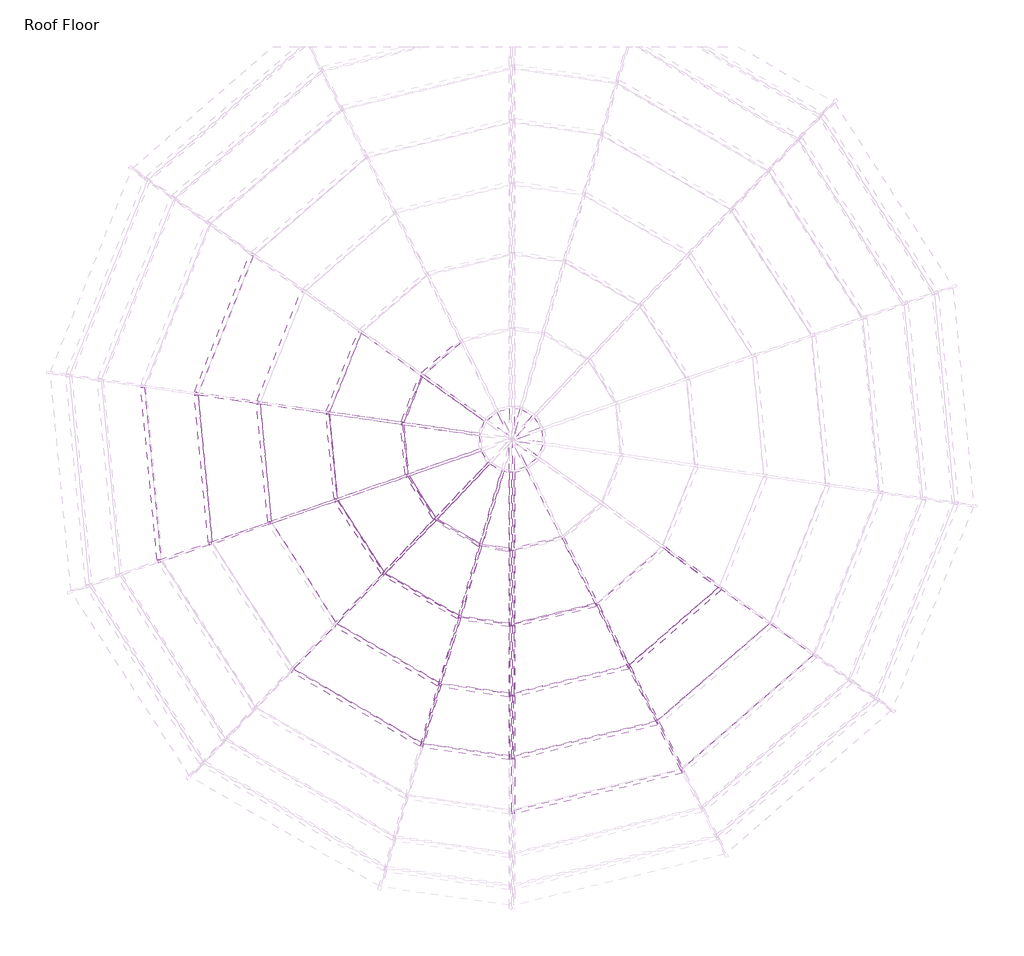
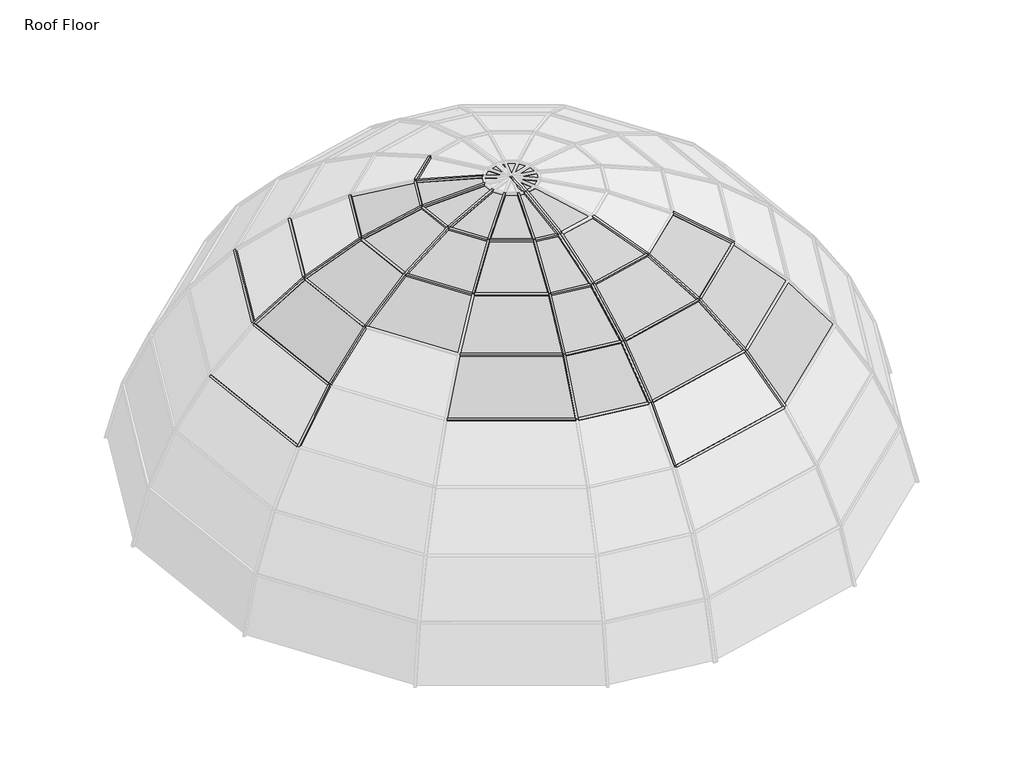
# One storey, part 2 of 5: 56 members, 33 plates.
"""IFC4 building model written with IfcOpenShell, lengths in millimetres."""

from ifc_helpers import new_model, si_unit, origin, place, context, project, spatial, transform, mapped, element, save
from components import member_a4b9d852, member_e5884c93, member_68b33a8a, member_355504b0, member_dee8aa16, member_4046197d, member_16c772f1, member_ac46e98e, member_b6a9e346, member_16816f3b, member_d3833f24, member_335e9b28, member_95e271e4, member_7f7bd10d, member_27f65fe7, member_3534141e, member_a4aff84e, member_5ef621be, member_fbc4017a, member_c4213f63, member_b6c57be0, member_ac816b31, member_27e61d6b, member_0ec1a058, member_85a1b8f2, system_panel_glazed_c9cd471f, system_panel_glazed_f537650c, system_panel_glazed_44273b71, system_panel_glazed_6d268319, system_panel_glazed_99547904, system_panel_glazed_224b1453, system_panel_glazed_86a28251, system_panel_glazed_afbe5211, system_panel_glazed_17e44092, system_panel_glazed_03693a4c, system_panel_glazed_4e9ddf93, system_panel_glazed_1d538f7b, system_panel_glazed_1c764c03, system_panel_glazed_1edf1cd4, system_panel_glazed_730a745b, system_panel_glazed_ecd21c16, system_panel_glazed_1715f78c, system_panel_glazed_c7e3ad41, system_panel_glazed_9eb7958d, system_panel_glazed_02924753, system_panel_glazed_9c9b509f, system_panel_glazed_fecaa5d6

model = new_model("IFC4")

# Units and contexts
model_context = context("Model", 3, world=origin())
ifc_project = project(units=[si_unit("LENGTHUNIT", "METRE", prefix="MILLI")], contexts=[model_context])

# Site, building, storey
site = spatial("IfcSite", under=ifc_project)
building = spatial("IfcBuilding", under=site)
storey = spatial("IfcBuildingStorey", under=building, Name="Roof Floor", Elevation=15240.0)

# Members
placement = place(None, origin())
member_shape = member_a4b9d852(model_context)
element("IfcMember", 1, ObjectType="Rectangular Mullion : 1\" Square", at=placement, inside=storey, context=model_context, shape_type="MappedRepresentation", body=[
    mapped(member_shape, transform((-1076.5556828, -3418.7511629, 21675.0614442), x_axis=(-0.17684502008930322, 0.7291506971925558, 0.6611089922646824), y_axis=(0.15582488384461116, -0.6424824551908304, 0.7502898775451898), z_axis=(0.9718253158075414, 0.23570226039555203, 0.0))),
])
member_2_shape = member_e5884c93(model_context)
element("IfcMember", 2, ObjectType="Rectangular Mullion : 1\" Square", at=placement, inside=storey, context=model_context, shape_type="MappedRepresentation", body=[
    mapped(member_2_shape, transform((-5866.2465514, -1846.2239324, 21117.9670279), x_axis=(0.6270371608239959, 0.059616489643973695, 0.7767047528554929), y_axis=(-0.7732178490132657, -0.07351483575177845, 0.6298648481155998), z_axis=(0.09464965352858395, -0.9955106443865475, 0.0))),
])
member_3_shape = member_68b33a8a(model_context)
element("IfcMember", 3, ObjectType="Rectangular Mullion : 1\" Square", at=placement, inside=storey, context=model_context, shape_type="MappedRepresentation", body=[
    mapped(member_3_shape, transform((-838.3803456, -3880.8791972, 21117.9670279), x_axis=(-0.14846056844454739, 0.6121186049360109, 0.7767047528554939), y_axis=(0.1830710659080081, -0.7548213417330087, 0.6298648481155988), z_axis=(0.9718253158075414, 0.2357022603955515, 0.0))),
])
member_4_shape = member_355504b0(model_context)
element("IfcMember", 4, ObjectType="Rectangular Mullion : 1\" Square", at=placement, inside=storey, context=model_context, shape_type="MappedRepresentation", body=[
    mapped(member_4_shape, transform((-2496.2458139, -1750.988302, 22733.3596998), x_axis=(0.1387867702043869, 0.9628912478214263, 0.23147068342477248), y_axis=(-0.03302188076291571, -0.22910310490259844, 0.9728418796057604), z_axis=(0.989771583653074, -0.1426611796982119, 0.0))),
])
member_5_shape = member_dee8aa16(model_context)
element("IfcMember", 5, ObjectType="Rectangular Mullion : 1\" Square", at=placement, inside=storey, context=model_context, shape_type="MappedRepresentation", body=[
    mapped(member_5_shape, transform((-2783.8842291, -1704.7570429, 22733.3596998), x_axis=(0.48743077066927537, 0.8430054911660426, 0.22749282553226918), y_axis=(-0.11387277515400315, -0.19694155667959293, 0.9737797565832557), z_axis=(0.8657044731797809, -0.5005554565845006, 0.0))),
])
element("IfcMember", 6, ObjectType="Rectangular Mullion : 1\" Square", at=placement, inside=storey, context=model_context, shape_type="MappedRepresentation", body=[
    mapped(member_5_shape, transform((-3215.8533052, -1448.26924, 22733.3596998), x_axis=(0.8194718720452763, 0.5260350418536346, 0.22749282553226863), y_axis=(-0.19144367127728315, -0.12289144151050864, 0.9737797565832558), z_axis=(0.5401991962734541, -0.8415371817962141, 0.0))),
])
element("IfcMember", 7, ObjectType="Rectangular Mullion : 1\" Square", at=placement, inside=storey, context=model_context, shape_type="MappedRepresentation", body=[
    mapped(member_5_shape, transform((-3482.3228948, -1022.3851788, 22733.3596998), x_axis=(0.9694081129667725, 0.09216791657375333, 0.22749282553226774), y_axis=(-0.2264715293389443, -0.021532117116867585, 0.973779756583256), z_axis=(0.09464965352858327, -0.9955106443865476, 0.0))),
])
element("IfcMember", 8, ObjectType="Rectangular Mullion : 1\" Square", at=placement, inside=storey, context=model_context, shape_type="MappedRepresentation", body=[
    mapped(member_5_shape, transform((-3524.0775334, -521.7457618, 22733.3596998), x_axis=(0.9039203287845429, -0.362180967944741, 0.22749282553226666), y_axis=(-0.21117238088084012, 0.08461212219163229, 0.9737797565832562), z_axis=(-0.37193314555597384, -0.9282595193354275, 0.0))),
])
element("IfcMember", 9, ObjectType="Rectangular Mullion : 1\" Square", at=placement, inside=storey, context=model_context, shape_type="MappedRepresentation", body=[
    mapped(member_5_shape, transform((-3331.8384125, -57.6041927, 22733.3596998), x_axis=(0.6375613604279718, -0.736045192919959, 0.22749282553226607), y_axis=(-0.1489460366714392, 0.17195366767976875, 0.9737797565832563), z_axis=(-0.7558641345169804, -0.6547285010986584, 0.0))),
])
member_6_shape = member_4046197d(model_context)
element("IfcMember", 10, ObjectType="Rectangular Mullion : 1\" Square", at=placement, inside=storey, context=model_context, shape_type="MappedRepresentation", body=[
    mapped(member_6_shape, transform((-2496.2458139, -2474.4625322, 22494.1337848), x_axis=(0.13145065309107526, 0.9119938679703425, 0.3885716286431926), y_axis=(-0.05543408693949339, -0.38459715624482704, 0.9214185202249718), z_axis=(0.9897715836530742, -0.14266117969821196, 0.0))),
])
member_7_shape = member_16c772f1(model_context)
element("IfcMember", 11, ObjectType="Rectangular Mullion : 1\" Square", at=placement, inside=storey, context=model_context, shape_type="MappedRepresentation", body=[
    mapped(member_7_shape, transform((-2988.1962192, -2398.7826709, 22494.1337848), x_axis=(0.462477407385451, 0.799848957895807, 0.3825654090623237), y_axis=(-0.19149520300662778, -0.3311885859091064, 0.923928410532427), z_axis=(0.8657044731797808, -0.5005554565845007, 0.0))),
])
element("IfcMember", 12, ObjectType="Rectangular Mullion : 1\" Square", at=placement, inside=storey, context=model_context, shape_type="MappedRepresentation", body=[
    mapped(member_7_shape, transform((-3715.4129599, -1971.5809187, 22494.1337848), x_axis=(0.7775201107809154, 0.4991053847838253, 0.38256540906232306), y_axis=(-0.32194301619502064, -0.20666152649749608, 0.9239284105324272), z_axis=(0.5401991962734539, -0.8415371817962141, 0.0))),
])
element("IfcMember", 13, ObjectType="Rectangular Mullion : 1\" Square", at=placement, inside=storey, context=model_context, shape_type="MappedRepresentation", body=[
    mapped(member_7_shape, transform((-4166.1169574, -1258.6914241, 22494.1337848), x_axis=(0.9197805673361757, 0.08744950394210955, 0.3825654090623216), y_axis=(-0.380847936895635, -0.03620968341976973, 0.9239284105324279), z_axis=(0.09464965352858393, -0.9955106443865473, 0.0))),
])
element("IfcMember", 14, ObjectType="Rectangular Mullion : 1\" Square", at=placement, inside=storey, context=model_context, shape_type="MappedRepresentation", body=[
    mapped(member_7_shape, transform((-4240.1517679, -418.5340746, 22494.1337848), x_axis=(0.8576453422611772, -0.34363959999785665, 0.3825654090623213), y_axis=(-0.3551199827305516, 0.14228875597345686, 0.9239284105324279), z_axis=(-0.3719331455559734, -0.9282595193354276, 0.0))),
])
member_8_shape = member_ac46e98e(model_context)
element("IfcMember", 15, ObjectType="Rectangular Mullion : 1\" Square", at=placement, inside=storey, context=model_context, shape_type="MappedRepresentation", body=[
    mapped(member_8_shape, transform((-1662.4458203, -2281.9573172, 22494.1337848), x_axis=(-0.21777201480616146, 0.8978970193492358, 0.3825654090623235), y_axis=(0.09017153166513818, -0.3717867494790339, 0.923928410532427), z_axis=(0.9718253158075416, 0.23570226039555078, 0.0))),
])
member_9_shape = member_b6a9e346(model_context)
element("IfcMember", 16, ObjectType="Rectangular Mullion : 1\" Square", at=placement, inside=storey, context=model_context, shape_type="MappedRepresentation", body=[
    mapped(member_9_shape, transform((-2496.2458139, -3148.1562054, 22138.0708204), x_axis=(0.12049183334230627, 0.8359624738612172, 0.535395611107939), y_axis=(-0.07638016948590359, -0.5299193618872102, 0.8446014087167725), z_axis=(0.9897715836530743, -0.14266117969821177, 0.0))),
])
member_10_shape = member_16816f3b(model_context)
element("IfcMember", 17, ObjectType="Rectangular Mullion : 1\" Square", at=placement, inside=storey, context=model_context, shape_type="MappedRepresentation", body=[
    mapped(member_10_shape, transform((-3178.4499827, -3045.0540309, 22138.0708204), x_axis=(0.42496420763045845, 0.7349703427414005, 0.5284165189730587), y_axis=(-0.2645017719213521, -0.45745254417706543, 0.8489852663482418), z_axis=(0.8657044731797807, -0.5005554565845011, 0.0))),
])
element("IfcMember", 18, ObjectType="Rectangular Mullion : 1\" Square", at=placement, inside=storey, context=model_context, shape_type="MappedRepresentation", body=[
    mapped(member_10_shape, transform((-4802.8607619, -1478.7379934, 22138.0708204), x_axis=(0.8451738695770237, 0.08035616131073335, 0.5284165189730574), y_axis=(-0.5260442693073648, -0.05001444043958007, 0.8489852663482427), z_axis=(0.09464965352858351, -0.9955106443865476, 0.0))),
])
element("IfcMember", 19, ObjectType="Rectangular Mullion : 1\" Square", at=placement, inside=storey, context=model_context, shape_type="MappedRepresentation", body=[
    mapped(member_10_shape, transform((-4906.9546217, -322.4241404, 22138.0708204), x_axis=(0.7880786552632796, -0.3157657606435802, 0.5284165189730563), y_axis=(-0.4905076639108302, 0.19653561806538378, 0.8489852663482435), z_axis=(-0.37193314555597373, -0.9282595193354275, 0.0))),
])
element("IfcMember", 20, ObjectType="Rectangular Mullion : 1\" Square", at=placement, inside=storey, context=model_context, shape_type="MappedRepresentation", body=[
    mapped(member_10_shape, transform((-472.4625291, -2125.0703261, 22138.0708204), x_axis=(-0.5558548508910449, 0.6417175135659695, 0.5284165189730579), y_axis=(0.34596935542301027, -0.399411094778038, 0.8489852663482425), z_axis=(0.7558641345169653, 0.654728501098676, 0.0))),
])
member_11_shape = member_d3833f24(model_context)
element("IfcMember", 21, ObjectType="Rectangular Mullion : 1\" Square", at=placement, inside=storey, context=model_context, shape_type="MappedRepresentation", body=[
    mapped(member_11_shape, transform((-1353.8113566, -2880.7961378, 22138.0708204), x_axis=(-0.2001077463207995, 0.8250653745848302, 0.5284165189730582), y_axis=(0.12454896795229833, -0.5135285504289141, 0.8489852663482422), z_axis=(0.9718253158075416, 0.23570226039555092, 0.0))),
])
member_12_shape = member_335e9b28(model_context)
element("IfcMember", 22, ObjectType="Rectangular Mullion : 1\" Square", at=placement, inside=storey, context=model_context, shape_type="MappedRepresentation", body=[
    mapped(member_12_shape, transform((-2496.2458139, -3753.3556085, 21675.0614442), x_axis=(0.10617586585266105, 0.7366394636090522, 0.6678989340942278), y_axis=(-0.0952832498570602, -0.6610673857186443, 0.7442519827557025), z_axis=(0.9897715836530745, -0.14266117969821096, 0.0))),
])
member_13_shape = member_95e271e4(model_context)
element("IfcMember", 23, ObjectType="Rectangular Mullion : 1\" Square", at=placement, inside=storey, context=model_context, shape_type="MappedRepresentation", body=[
    mapped(member_13_shape, transform((-3349.3606929, -3625.6191408, 21675.0614442), x_axis=(0.37556169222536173, 0.6495293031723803, 0.6611089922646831), y_axis=(-0.33092171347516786, -0.5723250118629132, 0.7502898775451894), z_axis=(0.8657044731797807, -0.5005554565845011, 0.0))),
])
element("IfcMember", 24, ObjectType="Rectangular Mullion : 1\" Square", at=placement, inside=storey, context=model_context, shape_type="MappedRepresentation", body=[
    mapped(member_13_shape, transform((-5374.8669805, -1676.4124822, 21675.0614442), x_axis=(0.746921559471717, 0.07101467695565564, 0.6611089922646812), y_axis=(-0.6581410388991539, -0.06257373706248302, 0.7502898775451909), z_axis=(0.09464965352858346, -0.9955106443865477, 0.0))),
])
element("IfcMember", 25, ObjectType="Rectangular Mullion : 1\" Square", at=placement, inside=storey, context=model_context, shape_type="MappedRepresentation", body=[
    mapped(member_13_shape, transform((-5505.9637934, -236.0856796, 21675.0614442), x_axis=(0.6964637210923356, -0.2790576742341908, 0.6611089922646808), y_axis=(-0.6136807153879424, 0.24588834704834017, 0.7502898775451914), z_axis=(-0.3719331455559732, -0.9282595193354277, 0.0))),
])
member_14_shape = member_7f7bd10d(model_context)
element("IfcMember", 26, ObjectType="Rectangular Mullion : 1\" Square", at=placement, inside=storey, context=model_context, shape_type="MappedRepresentation", body=[
    mapped(member_14_shape, transform((-5510.6873443, -247.8745755, 21675.0614442), x_axis=(-0.142661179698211, -0.9897715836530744, 0.0), y_axis=(-0.6014088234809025, 0.08668433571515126, 0.7942249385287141), z_axis=(-0.786101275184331, 0.11330506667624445, -0.6076238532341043))),
])
element("IfcMember", 27, ObjectType="Rectangular Mullion : 1\" Square", at=placement, inside=storey, context=model_context, shape_type="MappedRepresentation", body=[
    mapped(member_14_shape, transform((-4911.6781726, -334.2130363, 22138.0708204), x_axis=(-0.14266117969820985, -0.9897715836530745, 0.0), y_axis=(-0.4624947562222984, 0.06666189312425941, 0.8841124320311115), z_axis=(-0.8750693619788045, 0.12612852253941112, -0.4672742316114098))),
])
element("IfcMember", 28, ObjectType="Rectangular Mullion : 1\" Square", at=placement, inside=storey, context=model_context, shape_type="MappedRepresentation", body=[
    mapped(member_14_shape, transform((-4244.8753188, -430.3229705, 22494.1337848), x_axis=(-0.14266117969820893, -0.9897715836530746, 0.0), y_axis=(-0.3107336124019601, 0.04478773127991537, 0.9494412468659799), z_axis=(-0.9397299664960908, 0.13544840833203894, -0.31394477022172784))),
])
element("IfcMember", 29, ObjectType="Rectangular Mullion : 1\" Square", at=placement, inside=storey, context=model_context, shape_type="MappedRepresentation", body=[
    mapped(member_14_shape, transform((-826.0381641, -3877.8857785, 21117.9670279), x_axis=(0.8888888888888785, 0.4581228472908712, 0.0), y_axis=(0.33493133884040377, -0.6498622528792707, 0.6822756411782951), z_axis=(0.31256605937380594, -0.6064672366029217, -0.7310950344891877))),
])
element("IfcMember", 30, ObjectType="Rectangular Mullion : 1\" Square", at=placement, inside=storey, context=model_context, shape_type="MappedRepresentation", body=[
    mapped(member_14_shape, transform((-1064.2135013, -3415.7577442, 21675.0614442), x_axis=(0.8888888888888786, 0.45812284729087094, 0.0), y_axis=(0.2783663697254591, -0.540110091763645, 0.7942249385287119), z_axis=(0.3638525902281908, -0.7059777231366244, -0.6076238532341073))),
])
element("IfcMember", 31, ObjectType="Rectangular Mullion : 1\" Square", at=placement, inside=storey, context=model_context, shape_type="MappedRepresentation", body=[
    mapped(member_14_shape, transform((-1341.4691751, -2877.8027191, 22138.0708204), x_axis=(0.8888888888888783, 0.45812284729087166, 0.0), y_axis=(0.21406900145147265, -0.4153548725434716, 0.884112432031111), z_axis=(0.4050321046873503, -0.7858777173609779, -0.46727423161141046))),
])
element("IfcMember", 32, ObjectType="Rectangular Mullion : 1\" Square", at=placement, inside=storey, context=model_context, shape_type="MappedRepresentation", body=[
    mapped(member_14_shape, transform((-1650.1036388, -2278.9638985, 22494.1337848), x_axis=(0.8888888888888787, 0.4581228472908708, 0.0), y_axis=(0.14382527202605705, -0.2790620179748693, 0.9494412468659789), z_axis=(0.434960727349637, -0.8439477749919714, -0.3139447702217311))),
])
element("IfcMember", 33, ObjectType="Rectangular Mullion : 1\" Square", at=placement, inside=storey, context=model_context, shape_type="MappedRepresentation", body=[
    mapped(member_14_shape, transform((-462.8630546, -2116.7552742, 22138.0708204), x_axis=(0.5802469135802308, 0.8144406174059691, 0.0), y_axis=(0.38056711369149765, -0.27113443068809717, 0.88411243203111), z_axis=(0.7200570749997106, -0.5130035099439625, -0.4672742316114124))),
])
member_15_shape = member_27f65fe7(model_context)
element("IfcMember", 34, ObjectType="Rectangular Mullion : 1\" Square", at=placement, inside=storey, context=model_context, shape_type="MappedRepresentation", body=[
    mapped(member_15_shape, transform((-3341.437887, -65.9192447, 22733.3596998), x_axis=(-0.5802469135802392, -0.8144406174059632, 0.0), y_axis=(-0.12370914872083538, 0.08813638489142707, 0.9883966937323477), z_axis=(-0.804990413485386, 0.5735141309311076, -0.15189462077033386))),
])
element("IfcMember", 35, ObjectType="Rectangular Mullion : 1\" Square", at=placement, inside=storey, context=model_context, shape_type="MappedRepresentation", body=[
    mapped(member_15_shape, transform((-3528.8010843, -533.5346577, 22733.3596998), x_axis=(-0.14266117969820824, -0.9897715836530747, 0.0), y_axis=(-0.15034097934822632, 0.021669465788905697, 0.9883966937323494), z_axis=(-0.9782869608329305, 0.14100583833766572, -0.15189462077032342))),
])
member_16_shape = member_3534141e(model_context)
element("IfcMember", 36, ObjectType="Rectangular Mullion : 1\" Square", at=placement, inside=storey, context=model_context, shape_type="MappedRepresentation", body=[
    mapped(member_16_shape, transform((-2471.1056157, -1001.4536154, 22849.1034008), x_axis=(-0.9993221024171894, -0.00559198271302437, 0.03638770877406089), y_axis=(0.03681488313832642, -0.1517916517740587, 0.9877266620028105), z_axis=(0.0, 0.9883966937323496, 0.1518946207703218))),
])
member_17_shape = member_a4aff84e(model_context)
element("IfcMember", 37, ObjectType="Rectangular Mullion : 1\" Square", at=placement, inside=storey, context=model_context, shape_type="MappedRepresentation", body=[
    mapped(member_17_shape, transform((-2471.1056157, -2478.0861261, 22494.1337848), x_axis=(0.9989777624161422, -0.014191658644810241, 0.042918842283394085), y_axis=(-0.04520431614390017, -0.3136238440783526, 0.9484706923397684), z_axis=(0.0, -0.9494412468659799, -0.31394477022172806))),
])
member_18_shape = member_5ef621be(model_context)
element("IfcMember", 38, ObjectType="Rectangular Mullion : 1\" Square", at=placement, inside=storey, context=model_context, shape_type="MappedRepresentation", body=[
    mapped(member_18_shape, transform((-2471.1056157, -1754.611896, 22733.3596998), x_axis=(0.9997604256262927, -0.003324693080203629, 0.021634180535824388), y_axis=(-0.021888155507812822, -0.1518582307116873, 0.9881598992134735), z_axis=(0.0, -0.9883966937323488, -0.15189462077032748))),
])
member_19_shape = member_fbc4017a(model_context)
element("IfcMember", 39, ObjectType="Rectangular Mullion : 1\" Square", at=placement, inside=storey, context=model_context, shape_type="MappedRepresentation", body=[
    mapped(member_19_shape, transform((-2471.1056157, -1001.4536154, 22849.1034008), x_axis=(0.9999876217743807, -0.00017314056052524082, 0.0049725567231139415), y_axis=(-0.0049755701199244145, -0.0347977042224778, 0.9993819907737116), z_axis=(0.0, -0.9993943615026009, -0.034798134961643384))),
])
member_20_shape = member_c4213f63(model_context)
element("IfcMember", 40, ObjectType="Rectangular Mullion : 1\" Square", at=placement, inside=storey, context=model_context, shape_type="MappedRepresentation", body=[
    mapped(member_20_shape, transform((-2471.1056157, -3756.9792025, 21675.0614442), x_axis=(-0.9846406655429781, -0.12764416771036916, 0.11912063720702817), y_axis=(0.17459312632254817, -0.7198659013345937, 0.6717963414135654), z_axis=(0.0, 0.6822756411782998, 0.7310950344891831))),
])
member_21_shape = member_b6c57be0(model_context)
element("IfcMember", 41, ObjectType="Rectangular Mullion : 1\" Square", at=placement, inside=storey, context=model_context, shape_type="MappedRepresentation", body=[
    mapped(member_21_shape, transform((-2471.1056157, -3151.7797993, 22138.0708204), x_axis=(-0.9893147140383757, -0.08858896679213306, 0.11579460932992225), y_axis=(0.14579573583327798, -0.6011312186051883, 0.7857384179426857), z_axis=(0.0, 0.7942249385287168, 0.607623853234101))),
])
member_22_shape = member_ac816b31(model_context)
element("IfcMember", 42, ObjectType="Rectangular Mullion : 1\" Square", at=placement, inside=storey, context=model_context, shape_type="MappedRepresentation", body=[
    mapped(member_22_shape, transform((-2471.1056157, -2478.0861261, 22494.1337848), x_axis=(-0.9936392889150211, -0.052619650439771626, 0.09955971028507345), y_axis=(0.11260978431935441, -0.46430203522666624, 0.8784888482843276), z_axis=(0.0, 0.8841124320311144, 0.46727423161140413))),
])
member_23_shape = member_27e61d6b(model_context)
element("IfcMember", 43, ObjectType="Rectangular Mullion : 1\" Square", at=placement, inside=storey, context=model_context, shape_type="MappedRepresentation", body=[
    mapped(member_23_shape, transform((-2471.1056157, -1754.611896, 22733.3596998), x_axis=(-0.9971136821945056, -0.02383563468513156, 0.07208444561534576), y_axis=(0.07592301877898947, -0.31303862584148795, 0.9467008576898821), z_axis=(0.0, 0.9494412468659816, 0.3139447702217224))),
])
member_24_shape = member_0ec1a058(model_context)
element("IfcMember", 44, ObjectType="Rectangular Mullion : 1\" Square", at=placement, inside=storey, context=model_context, shape_type="MappedRepresentation", body=[
    mapped(member_24_shape, transform((-2471.1056157, -3756.9792025, 21675.0614442), x_axis=(0.9961867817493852, -0.05301285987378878, 0.0692930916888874), y_axis=(-0.08724617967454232, -0.6053068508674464, 0.7911963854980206), z_axis=(0.0, -0.7942249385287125, -0.6076238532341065))),
])
member_25_shape = member_85a1b8f2(model_context)
element("IfcMember", 45, ObjectType="Rectangular Mullion : 1\" Square", at=placement, inside=storey, context=model_context, shape_type="MappedRepresentation", body=[
    mapped(member_25_shape, transform((-2471.1056157, -3151.7797993, 22138.0708204), x_axis=(0.9977396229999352, -0.0314001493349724, 0.0594110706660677), y_axis=(-0.06719854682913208, -0.46621801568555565, 0.8821140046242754), z_axis=(0.0, -0.8841124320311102, -0.46727423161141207))),
])
element("IfcMember", 46, ObjectType="Rectangular Mullion : 1\" Square", at=placement, inside=storey, context=model_context, shape_type="MappedRepresentation", body=[
    mapped(member_14_shape, transform((-5865.0445008, -1858.8669176, 21117.9670279), x_axis=(0.32662703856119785, -0.9451533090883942, 0.0), y_axis=(-0.6909968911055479, -0.2387954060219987, 0.6822756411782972), z_axis=(-0.6448550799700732, -0.22284967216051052, -0.7310950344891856))),
])
element("IfcMember", 47, ObjectType="Rectangular Mullion : 1\" Square", at=placement, inside=storey, context=model_context, shape_type="MappedRepresentation", body=[
    mapped(member_14_shape, transform((-5373.6649299, -1689.0554674, 21675.0614442), x_axis=(0.32662703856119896, -0.9451533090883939, 0.0), y_axis=(-0.5742976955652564, -0.19846637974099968, 0.7942249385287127), z_axis=(-0.7506643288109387, -0.2594153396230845, -0.6076238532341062))),
])
element("IfcMember", 48, ObjectType="Rectangular Mullion : 1\" Square", at=placement, inside=storey, context=model_context, shape_type="MappedRepresentation", body=[
    mapped(member_14_shape, transform((-4801.6587113, -1491.3809786, 22138.0708204), x_axis=(0.32662703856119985, -0.9451533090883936, 0.0), y_axis=(-0.44164578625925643, -0.15262439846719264, 0.8841124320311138), z_axis=(-0.8356217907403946, -0.28877502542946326, -0.4672742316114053))),
])
element("IfcMember", 49, ObjectType="Rectangular Mullion : 1\" Square", at=placement, inside=storey, context=model_context, shape_type="MappedRepresentation", body=[
    mapped(member_14_shape, transform((-4164.9149068, -1271.3344092, 22494.1337848), x_axis=(0.3266270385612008, -0.9451533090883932, 0.0), y_axis=(-0.29672593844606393, -0.1025428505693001, 0.949441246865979), z_axis=(-0.8973675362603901, -0.3101131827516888, -0.3139447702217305))),
])
element("IfcMember", 50, ObjectType="Rectangular Mullion : 1\" Square", at=placement, inside=storey, context=model_context, shape_type="MappedRepresentation", body=[
    mapped(member_14_shape, transform((-3708.5524301, -1982.2684409, 22494.1337848), x_axis=(0.7233314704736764, -0.6905009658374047, 0.0), y_axis=(-0.2167791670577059, -0.22708613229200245, 0.9494412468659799), z_axis=(-0.6555900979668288, -0.6867607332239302, -0.31394477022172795))),
])
element("IfcMember", 51, ObjectType="Rectangular Mullion : 1\" Square", at=placement, inside=storey, context=model_context, shape_type="MappedRepresentation", body=[
    mapped(member_14_shape, transform((-3338.3662461, -3631.976195, 21675.0614442), x_axis=(0.9592955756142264, -0.2824039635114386, 0.0), y_axis=(-0.17159538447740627, -0.5828908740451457, 0.7942249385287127), z_axis=(-0.2242922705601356, -0.7618964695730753, -0.6076238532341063))),
])
element("IfcMember", 52, ObjectType="Rectangular Mullion : 1\" Square", at=placement, inside=storey, context=model_context, shape_type="MappedRepresentation", body=[
    mapped(member_14_shape, transform((-3167.4555359, -3051.4110852, 22138.0708204), x_axis=(0.959295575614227, -0.2824039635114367, 0.0), y_axis=(-0.1319600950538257, -0.4482541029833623, 0.8841124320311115), z_axis=(-0.24967685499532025, -0.8481251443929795, -0.4672742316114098))),
])
element("IfcMember", 53, ObjectType="Rectangular Mullion : 1\" Square", at=placement, inside=storey, context=model_context, shape_type="MappedRepresentation", body=[
    mapped(member_14_shape, transform((-2977.2017724, -2405.1397252, 22494.1337848), x_axis=(0.959295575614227, -0.28240396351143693, 0.0), y_axis=(-0.08865924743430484, -0.30116582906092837, 0.9494412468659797), z_axis=(-0.2681259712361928, -0.9107947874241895, -0.31394477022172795))),
])
element("IfcMember", 54, ObjectType="Rectangular Mullion : 1\" Square", at=placement, inside=storey, context=model_context, shape_type="MappedRepresentation", body=[
    mapped(member_15_shape, transform((-3481.1208442, -1035.028164, 22733.3596998), x_axis=(0.32662703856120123, -0.945153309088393, 0.0), y_axis=(-0.14356370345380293, -0.04961289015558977, 0.9883966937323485), z_axis=(-0.9341864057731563, -0.32283708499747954, -0.15189462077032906))),
])
element("IfcMember", 55, ObjectType="Rectangular Mullion : 1\" Square", at=placement, inside=storey, context=model_context, shape_type="MappedRepresentation", body=[
    mapped(member_15_shape, transform((-3208.9927754, -1458.9567622, 22733.3596998), x_axis=(0.7233314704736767, -0.6905009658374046, 0.0), y_axis=(-0.104883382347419, -0.10987015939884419, 0.9883966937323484), z_axis=(-0.6824888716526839, -0.7149384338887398, -0.1518946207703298))),
])
element("IfcMember", 56, ObjectType="Rectangular Mullion : 1\" Square", at=placement, inside=storey, context=model_context, shape_type="MappedRepresentation", body=[
    mapped(member_15_shape, transform((-2772.8897823, -1711.1140972, 22733.3596998), x_axis=(0.9592955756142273, -0.282403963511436, 0.0), y_axis=(-0.04289564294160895, -0.14571183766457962, 0.9883966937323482), z_axis=(-0.27912714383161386, -0.948164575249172, -0.15189462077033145))),
])

# Plates
system_panel_glazed_shape = system_panel_glazed_c9cd471f(model_context)
element("IfcPlate", 57, ObjectType="System Panel : Glazed", at=placement, inside=storey, context=model_context, shape_type="MappedRepresentation", body=[
    mapped(system_panel_glazed_shape, transform((-191.8757321, -3317.287633, 21127.3743739), x_axis=(0.7558641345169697, 0.654728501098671, 0.0), y_axis=(-0.4849809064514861, 0.5598957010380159, -0.6717963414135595), z_axis=(-0.43984421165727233, 0.5077867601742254, 0.7407359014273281))),
])
system_panel_glazed_2_shape = system_panel_glazed_f537650c(model_context)
element("IfcPlate", 58, ObjectType="System Panel : Glazed", at=placement, inside=storey, context=model_context, shape_type="MappedRepresentation", body=[
    mapped(system_panel_glazed_2_shape, transform((-1763.7294541, -3575.1471024, 21682.9171425), x_axis=(0.9718253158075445, 0.2357022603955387, 0.0), y_axis=(-0.14579573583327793, 0.6011312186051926, -0.7857384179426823), z_axis=(-0.1852003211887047, 0.7636004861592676, 0.6185589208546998))),
])
system_panel_glazed_3_shape = system_panel_glazed_44273b71(model_context)
element("IfcPlate", 59, ObjectType="System Panel : Glazed", at=placement, inside=storey, context=model_context, shape_type="MappedRepresentation", body=[
    mapped(system_panel_glazed_3_shape, transform((-523.6222459, -2934.2963761, 21682.9171425), x_axis=(0.7558641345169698, 0.6547285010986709, 0.0), y_axis=(-0.40498815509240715, 0.4675465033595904, -0.7857384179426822), z_axis=(-0.5144453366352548, 0.5939114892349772, 0.6185589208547))),
])
element("IfcPlate", 60, ObjectType="System Panel : Glazed", at=placement, inside=storey, context=model_context, shape_type="MappedRepresentation", body=[
    mapped(system_panel_glazed_3_shape, transform((-5432.2420579, -967.5205241, 21682.9171425), x_axis=(0.09464965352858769, -0.9955106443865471, 0.0), y_axis=(0.6157819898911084, 0.05854638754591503, -0.785738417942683), z_axis=(0.7822109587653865, 0.07436986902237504, 0.618558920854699))),
])
element("IfcPlate", 61, ObjectType="System Panel : Glazed", at=placement, inside=storey, context=model_context, shape_type="MappedRepresentation", body=[
    mapped(system_panel_glazed_3_shape, transform((-3960.0028085, -3261.0153635, 21682.9171425), x_axis=(0.8657044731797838, -0.5005554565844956, 0.0), y_axis=(0.3096230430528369, 0.5354892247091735, -0.7857384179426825), z_axis=(0.39330565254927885, 0.6802172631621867, 0.6185589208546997))),
])
system_panel_glazed_4_shape = system_panel_glazed_6d268319(model_context)
element("IfcPlate", 62, ObjectType="System Panel : Glazed", at=placement, inside=storey, context=model_context, shape_type="MappedRepresentation", body=[
    mapped(system_panel_glazed_4_shape, transform((-2909.6282297, -3683.6205117, 21682.8282837), x_axis=(0.9897715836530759, -0.14266117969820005, 0.0), y_axis=(0.08724617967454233, 0.6053068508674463, -0.7911963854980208), z_axis=(0.11287300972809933, 0.7831036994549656, 0.6115621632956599))),
])
system_panel_glazed_5_shape = system_panel_glazed_99547904(model_context)
element("IfcPlate", 63, ObjectType="System Panel : Glazed", at=placement, inside=storey, context=model_context, shape_type="MappedRepresentation", body=[
    mapped(system_panel_glazed_5_shape, transform((-1902.6074708, -3002.4184853, 22144.1384086), x_axis=(0.9718253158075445, 0.2357022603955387, 0.0), y_axis=(-0.11260978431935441, 0.4643020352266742, -0.8784888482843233), z_axis=(-0.20706180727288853, 0.8537377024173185, 0.47776285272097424))),
])
system_panel_glazed_6_shape = system_panel_glazed_224b1453(model_context)
element("IfcPlate", 64, ObjectType="System Panel : Glazed", at=placement, inside=storey, context=model_context, shape_type="MappedRepresentation", body=[
    mapped(system_panel_glazed_6_shape, transform((-909.4707952, -2488.8459653, 22144.1384086), x_axis=(0.7558641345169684, 0.6547285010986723, 0.0), y_axis=(-0.3128049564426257, 0.36112380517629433, -0.8784888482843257), z_axis=(-0.5751716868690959, 0.66401821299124, 0.47776285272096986))),
])
element("IfcPlate", 65, ObjectType="System Panel : Glazed", at=placement, inside=storey, context=model_context, shape_type="MappedRepresentation", body=[
    mapped(system_panel_glazed_6_shape, transform((-4845.5617205, -911.7410194, 22144.1384086), x_axis=(0.0946496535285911, -0.9955106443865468, 0.0), y_axis=(0.47561800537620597, 0.04522008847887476, -0.8784888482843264), z_axis=(0.8745449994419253, 0.08314866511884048, 0.47776285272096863))),
])
element("IfcPlate", 66, ObjectType="System Panel : Glazed", at=placement, inside=storey, context=model_context, shape_type="MappedRepresentation", body=[
    mapped(system_panel_glazed_6_shape, transform((-4478.3097677, -1974.4497285, 22144.1384086), x_axis=(0.5401991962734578, -0.8415371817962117, 0.0), y_axis=(0.4020552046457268, 0.2580871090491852, -0.8784888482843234), z_axis=(0.7392810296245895, 0.47455896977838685, 0.4777628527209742))),
])
element("IfcPlate", 67, ObjectType="System Panel : Glazed", at=placement, inside=storey, context=model_context, shape_type="MappedRepresentation", body=[
    mapped(system_panel_glazed_6_shape, transform((-3665.0124477, -2750.8331818, 22144.1384086), x_axis=(0.865704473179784, -0.5005554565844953, 0.0), y_axis=(0.23914680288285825, 0.41360143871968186, -0.8784888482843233), z_axis=(0.43973238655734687, 0.7605117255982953, 0.47776285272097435))),
])
system_panel_glazed_7_shape = system_panel_glazed_86a28251(model_context)
element("IfcPlate", 68, ObjectType="System Panel : Glazed", at=placement, inside=storey, context=model_context, shape_type="MappedRepresentation", body=[
    mapped(system_panel_glazed_7_shape, transform((-2824.0180109, -3089.5939905, 22144.0529771), x_axis=(0.9897715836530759, -0.14266117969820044, 0.0), y_axis=(0.0671985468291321, 0.46621801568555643, -0.882114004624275), z_axis=(0.12584342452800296, 0.8730913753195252, 0.47103596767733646))),
])
system_panel_glazed_8_shape = system_panel_glazed_afbe5211(model_context)
element("IfcPlate", 69, ObjectType="System Panel : Glazed", at=placement, inside=storey, context=model_context, shape_type="MappedRepresentation", body=[
    mapped(system_panel_glazed_8_shape, transform((-2057.1068274, -2365.3050025, 22498.2246338), x_axis=(0.9718253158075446, 0.23570226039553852, 0.0), y_axis=(-0.07592301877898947, 0.3130386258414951, -0.9467008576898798), z_axis=(-0.22313953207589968, 0.9200278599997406, 0.32211408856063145))),
])
system_panel_glazed_9_shape = system_panel_glazed_17e44092(model_context)
element("IfcPlate", 70, ObjectType="System Panel : Glazed", at=placement, inside=storey, context=model_context, shape_type="MappedRepresentation", body=[
    mapped(system_panel_glazed_9_shape, transform((-4076.6094444, -42.6960528, 22498.2246338), x_axis=(-0.3719331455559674, -0.92825951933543, 0.0), y_axis=(0.29900546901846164, -0.11980490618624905, -0.9467008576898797), z_axis=(0.8787840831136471, -0.3521094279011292, 0.3221140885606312))),
])
element("IfcPlate", 71, ObjectType="System Panel : Glazed", at=placement, inside=storey, context=model_context, shape_type="MappedRepresentation", body=[
    mapped(system_panel_glazed_9_shape, transform((-4192.9259879, -849.6907075, 22498.2246338), x_axis=(0.0946496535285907, -0.9955106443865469, 0.0), y_axis=(0.32066800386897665, 0.030487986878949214, -0.9467008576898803), z_axis=(0.9424507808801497, 0.08960490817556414, 0.32211408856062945))),
])
element("IfcPlate", 72, ObjectType="System Panel : Glazed", at=placement, inside=storey, context=model_context, shape_type="MappedRepresentation", body=[
    mapped(system_panel_glazed_9_shape, transform((-3926.615782, -1620.3065556, 22498.2246338), x_axis=(0.5401991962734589, -0.841537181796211, 0.0), y_axis=(0.271070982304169, 0.17400577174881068, -0.9467008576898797), z_axis=(0.7966839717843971, 0.5114070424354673, 0.3221140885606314))),
])
element("IfcPlate", 73, ObjectType="System Panel : Glazed", at=placement, inside=storey, context=model_context, shape_type="MappedRepresentation", body=[
    mapped(system_panel_glazed_9_shape, transform((-3336.8588725, -2183.2956308, 22498.2246338), x_axis=(0.865704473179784, -0.5005554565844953, 0.0), y_axis=(0.1612359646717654, 0.2788556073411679, -0.9467008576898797), z_axis=(0.473876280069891, 0.819563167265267, 0.3221140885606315))),
])
system_panel_glazed_10_shape = system_panel_glazed_03693a4c(model_context)
element("IfcPlate", 74, ObjectType="System Panel : Glazed", at=placement, inside=storey, context=model_context, shape_type="MappedRepresentation", body=[
    mapped(system_panel_glazed_10_shape, transform((-2728.7787665, -2428.7762305, 22498.1579687), x_axis=(0.9897715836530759, -0.1426611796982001, 0.0), y_axis=(0.04520431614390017, 0.3136238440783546, -0.9484706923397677), z_axis=(0.13530994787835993, 0.9387693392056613, 0.3168648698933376))),
])
system_panel_glazed_11_shape = system_panel_glazed_4e9ddf93(model_context)
element("IfcPlate", 75, ObjectType="System Panel : Glazed", at=placement, inside=storey, context=model_context, shape_type="MappedRepresentation", body=[
    mapped(system_panel_glazed_11_shape, transform((-2222.9356485, -1681.5140361, 22735.3433422), x_axis=(0.9718253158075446, 0.2357022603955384, 0.0), y_axis=(-0.036814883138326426, 0.15179165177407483, -0.9877266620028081), z_axis=(-0.23280940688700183, 0.9598977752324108, 0.15619232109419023))),
])
system_panel_glazed_12_shape = system_panel_glazed_1d538f7b(model_context)
element("IfcPlate", 76, ObjectType="System Panel : Glazed", at=placement, inside=storey, context=model_context, shape_type="MappedRepresentation", body=[
    mapped(system_panel_glazed_12_shape, transform((-3423.4752789, -304.3925284, 22735.3433422), x_axis=(-0.3719331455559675, -0.9282595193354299, 0.0), y_axis=(0.14498700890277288, -0.05809310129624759, -0.987726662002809), z_axis=(0.9168666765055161, -0.3673682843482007, 0.1561923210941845))),
])
element("IfcPlate", 77, ObjectType="System Panel : Glazed", at=placement, inside=storey, context=model_context, shape_type="MappedRepresentation", body=[
    mapped(system_panel_glazed_12_shape, transform((-3492.4731507, -783.0941134, 22735.3433422), x_axis=(0.09464965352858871, -0.995510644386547, 0.0), y_axis=(0.15549111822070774, 0.014783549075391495, -0.9877266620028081), z_axis=(0.9832924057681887, 0.09348798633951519, 0.15619232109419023))),
])
element("IfcPlate", 78, ObjectType="System Panel : Glazed", at=placement, inside=storey, context=model_context, shape_type="MappedRepresentation", body=[
    mapped(system_panel_glazed_12_shape, transform((-3334.5004592, -1240.2161349, 22735.3433422), x_axis=(0.5401991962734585, -0.8415371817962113, 0.0), y_axis=(0.13144164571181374, 0.08437496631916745, -0.9877266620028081), z_axis=(0.8312087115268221, 0.5335691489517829, 0.15619232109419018))),
])
element("IfcPlate", 79, ObjectType="System Panel : Glazed", at=placement, inside=storey, context=model_context, shape_type="MappedRepresentation", body=[
    mapped(system_panel_glazed_12_shape, transform((-2984.6622469, -1574.1759215, 22735.3433422), x_axis=(0.8657044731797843, -0.5005554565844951, 0.0), y_axis=(0.07818291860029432, 0.13521639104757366, -0.9877266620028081), z_axis=(0.49441197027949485, 0.8550793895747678, 0.15619232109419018))),
])
system_panel_glazed_13_shape = system_panel_glazed_1c764c03(model_context)
element("IfcPlate", 80, ObjectType="System Panel : Glazed", at=placement, inside=storey, context=model_context, shape_type="MappedRepresentation", body=[
    mapped(system_panel_glazed_13_shape, transform((-2626.5558326, -1719.5266878, 22735.3082297), x_axis=(0.9897715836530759, -0.1426611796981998, 0.0), y_axis=(0.021888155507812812, 0.15185823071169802, -0.9881598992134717), z_axis=(0.14097205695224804, 0.9780525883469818, 0.15342755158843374))),
])
system_panel_glazed_14_shape = system_panel_glazed_1edf1cd4(model_context)
element("IfcPlate", 81, ObjectType="System Panel : Glazed", at=placement, inside=storey, context=model_context, shape_type="MappedRepresentation", body=[
    mapped(system_panel_glazed_14_shape, transform((-2395.4861833, -982.2189768, 22849.1342886), x_axis=(0.9999649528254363, 0.00028901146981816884, -0.008367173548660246), y_axis=(-0.008372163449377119, 0.0345193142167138, -0.999368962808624), z_axis=(0.0, 0.9994039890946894, 0.034520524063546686))),
])
system_panel_glazed_15_shape = system_panel_glazed_730a745b(model_context)
element("IfcPlate", 82, ObjectType="System Panel : Glazed", at=placement, inside=storey, context=model_context, shape_type="MappedRepresentation", body=[
    mapped(system_panel_glazed_15_shape, transform((-2335.2603835, -946.2448874, 22849.8468539), x_axis=(0.9997295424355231, 0.0006245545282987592, -0.023247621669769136), y_axis=(-0.02325600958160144, 0.026848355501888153, -0.999368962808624), z_axis=(0.0, 0.9996393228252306, 0.026855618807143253))),
])
system_panel_glazed_16_shape = system_panel_glazed_ecd21c16(model_context)
element("IfcPlate", 83, ObjectType="System Panel : Glazed", at=placement, inside=storey, context=model_context, shape_type="MappedRepresentation", body=[
    mapped(system_panel_glazed_16_shape, transform((-2298.8726069, -849.3613514, 22852.1578434), x_axis=(0.9994562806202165, 0.00043583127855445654, -0.03296897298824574), y_axis=(-0.032971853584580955, 0.013211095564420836, -0.9993689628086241), z_axis=(0.0, 0.9999126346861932, 0.013218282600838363))),
])
system_panel_glazed_17_shape = system_panel_glazed_1715f78c(model_context)
element("IfcPlate", 84, ObjectType="System Panel : Glazed", at=placement, inside=storey, context=model_context, shape_type="MappedRepresentation", body=[
    mapped(system_panel_glazed_17_shape, transform((-2295.2492326, -716.1043234, 22853.8790033), x_axis=(0.9993746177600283, -0.0001189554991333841, -0.035360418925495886), y_axis=(-0.03536061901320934, -0.0033619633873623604, -0.999368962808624), z_axis=(0.0, 0.9999943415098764, -0.003364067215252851))),
])
system_panel_glazed_18_shape = system_panel_glazed_c7e3ad41(model_context)
element("IfcPlate", 85, ObjectType="System Panel : Glazed", at=placement, inside=storey, context=model_context, shape_type="MappedRepresentation", body=[
    mapped(system_panel_glazed_18_shape, transform((-2309.054656, -656.9487383, 22854.5954822), x_axis=(0.9995531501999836, -0.0005738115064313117, -0.029885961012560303), y_axis=(-0.029891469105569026, -0.019187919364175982, -0.9993689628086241), z_axis=(0.0, 0.9998157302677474, -0.019196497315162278))),
])
system_panel_glazed_19_shape = system_panel_glazed_9eb7958d(model_context)
element("IfcPlate", 86, ObjectType="System Panel : Glazed", at=placement, inside=storey, context=model_context, shape_type="MappedRepresentation", body=[
    mapped(system_panel_glazed_19_shape, transform((-2358.8714038, -639.3911054, 22856.5695463), x_axis=(0.9998419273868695, -0.0005468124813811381, -0.01777135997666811), y_axis=(-0.01777977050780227, -0.030749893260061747, -0.999368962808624), z_axis=(0.0, 0.9995269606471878, -0.030754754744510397))),
])
system_panel_glazed_20_shape = system_panel_glazed_02924753(model_context)
element("IfcPlate", 87, ObjectType="System Panel : Glazed", at=placement, inside=storey, context=model_context, shape_type="MappedRepresentation", body=[
    mapped(system_panel_glazed_20_shape, transform((-2422.0218647, -554.7414488, 22855.2222964), x_axis=(0.9999876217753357, -0.00017175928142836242, -0.004972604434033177), y_axis=(-0.004975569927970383, -0.03452009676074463, -0.999391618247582), z_axis=(0.0, 0.9994039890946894, -0.03452052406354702))),
])
system_panel_glazed_21_shape = system_panel_glazed_9c9b509f(model_context)
element("IfcPlate", 88, ObjectType="System Panel : Glazed", at=placement, inside=storey, context=model_context, shape_type="MappedRepresentation", body=[
    mapped(system_panel_glazed_21_shape, transform((-2546.7250481, -609.0005025, 22856.7073347), x_axis=(0.9999649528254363, 0.0002890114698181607, 0.008367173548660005), y_axis=(0.008372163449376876, -0.03451931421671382, -0.999368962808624), z_axis=(0.0, 0.9994039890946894, -0.034520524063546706))),
])
system_panel_glazed_22_shape = system_panel_glazed_fecaa5d6(model_context)
element("IfcPlate", 89, ObjectType="System Panel : Glazed", at=placement, inside=storey, context=model_context, shape_type="MappedRepresentation", body=[
    mapped(system_panel_glazed_22_shape, transform((-2606.9508479, -645.3251758, 22855.7464195), x_axis=(0.9997295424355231, 0.0006245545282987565, 0.023247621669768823), y_axis=(0.02325600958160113, -0.02684835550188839, -0.999368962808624), z_axis=(0.0, 0.9996393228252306, -0.026855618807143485))),
])

save(model, "model.ifc")
